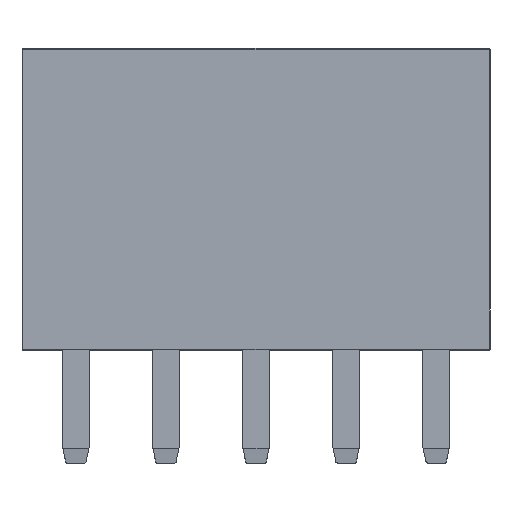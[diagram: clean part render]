
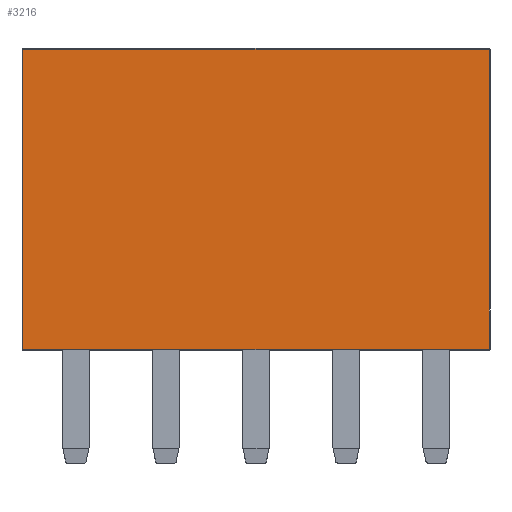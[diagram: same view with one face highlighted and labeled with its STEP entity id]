
A CAD part, top view. The second image highlights one B-rep face of the part: STEP entity #3216.
In plain terms, the highlighted planar face has unit normal (0, 0, 1).
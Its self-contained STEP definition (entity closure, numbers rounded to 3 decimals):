
#373 = LINE ( 'NONE', #4817, #4930 ) ;
#734 = CARTESIAN_POINT ( 'NONE',  ( -6.6, 8.48, 2.54 ) ) ;
#1255 = DIRECTION ( 'NONE',  ( 0., -1., 0. ) ) ;
#1321 = VERTEX_POINT ( 'NONE', #4734 ) ;
#1365 = CARTESIAN_POINT ( 'NONE',  ( -6.6, 8.5, 2.54 ) ) ;
#1389 = CARTESIAN_POINT ( 'NONE',  ( -6.58, 0.02, 2.54 ) ) ;
#1884 = DIRECTION ( 'NONE',  ( 1., 0., 0. ) ) ;
#1961 = DIRECTION ( 'NONE',  ( -1., 0., 0. ) ) ;
#2055 = VECTOR ( 'NONE', #4523, 1000. ) ;
#2072 = CARTESIAN_POINT ( 'NONE',  ( -6.58, 8.48, 2.54 ) ) ;
#2943 = VECTOR ( 'NONE', #1884, 1000. ) ;
#3108 = VERTEX_POINT ( 'NONE', #3876 ) ;
#3216 = ADVANCED_FACE ( 'NONE', ( #4962 ), #6655, .F. ) ;
#3586 = ORIENTED_EDGE ( 'NONE', *, *, #4634, .F. ) ;
#3730 = EDGE_CURVE ( 'NONE', #3108, #1321, #373, .T. ) ;
#3737 = LINE ( 'NONE', #6002, #6681 ) ;
#3876 = CARTESIAN_POINT ( 'NONE',  ( 6.58, 8.48, 2.54 ) ) ;
#4268 = EDGE_LOOP ( 'NONE', ( #7285, #3586, #5711, #4434 ) ) ;
#4290 = VERTEX_POINT ( 'NONE', #1389 ) ;
#4434 = ORIENTED_EDGE ( 'NONE', *, *, #7469, .F. ) ;
#4523 = DIRECTION ( 'NONE',  ( -1., 0., 0. ) ) ;
#4634 = EDGE_CURVE ( 'NONE', #1321, #4290, #5204, .T. ) ;
#4734 = CARTESIAN_POINT ( 'NONE',  ( 6.58, 0.02, 2.54 ) ) ;
#4817 = CARTESIAN_POINT ( 'NONE',  ( 6.58, 8.5, 2.54 ) ) ;
#4930 = VECTOR ( 'NONE', #1255, 1000. ) ;
#4962 = FACE_OUTER_BOUND ( 'NONE', #4268, .T. ) ;
#5204 = LINE ( 'NONE', #7429, #2055 ) ;
#5483 = DIRECTION ( 'NONE',  ( 0., 0., -1. ) ) ;
#5640 = EDGE_CURVE ( 'NONE', #4290, #5780, #3737, .T. ) ;
#5711 = ORIENTED_EDGE ( 'NONE', *, *, #3730, .F. ) ;
#5780 = VERTEX_POINT ( 'NONE', #2072 ) ;
#6002 = CARTESIAN_POINT ( 'NONE',  ( -6.58, 8.5, 2.54 ) ) ;
#6655 = PLANE ( 'NONE',  #7261 ) ;
#6681 = VECTOR ( 'NONE', #7185, 1000. ) ;
#7185 = DIRECTION ( 'NONE',  ( 0., 1., 0. ) ) ;
#7261 = AXIS2_PLACEMENT_3D ( 'NONE', #1365, #5483, #1961 ) ;
#7285 = ORIENTED_EDGE ( 'NONE', *, *, #5640, .F. ) ;
#7429 = CARTESIAN_POINT ( 'NONE',  ( -6.6, 0.02, 2.54 ) ) ;
#7447 = LINE ( 'NONE', #734, #2943 ) ;
#7469 = EDGE_CURVE ( 'NONE', #5780, #3108, #7447, .T. ) ;
